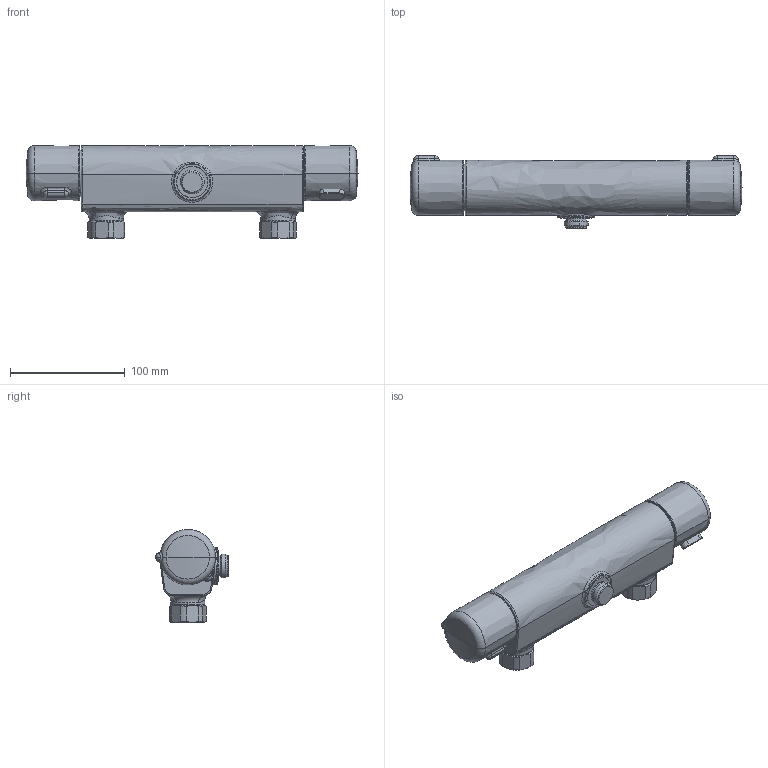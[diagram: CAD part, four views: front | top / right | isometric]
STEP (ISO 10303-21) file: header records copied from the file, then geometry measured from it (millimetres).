
FILE_DESCRIPTION (( 'STEP AP203' ), '1' );
FILE_NAME ('7460-107(2022).STEP', '2022-02-24T08:34:29', ( '' ), ( '' ), 'SwSTEP 2.0', 'SolidWorks 2016', '' );
FILE_SCHEMA (( 'CONFIG_CONTROL_DESIGN' ));
Length unit declared in the file: millimetre
Products named in the file (1): 7460-107(2022)
Bounding box: 289.8 x 63.4 x 81.15 mm (x, y, z)
Volume: 663312.2 mm3; surface area: 63743.4 mm2
Topology: 1 solids, 1 shells, 217 faces, 505 edges, 308 vertices
Faces by surface type: cylinder 52, bspline 50, cone 42, plane 41, torus 18, sphere 14
Entity records: 10955 total; most frequent: CARTESIAN_POINT 6312, ORIENTED_EDGE 1002, DIRECTION 895, EDGE_CURVE 501, AXIS2_PLACEMENT_3D 394, VERTEX_POINT 306, EDGE_LOOP 237, CIRCLE 226
